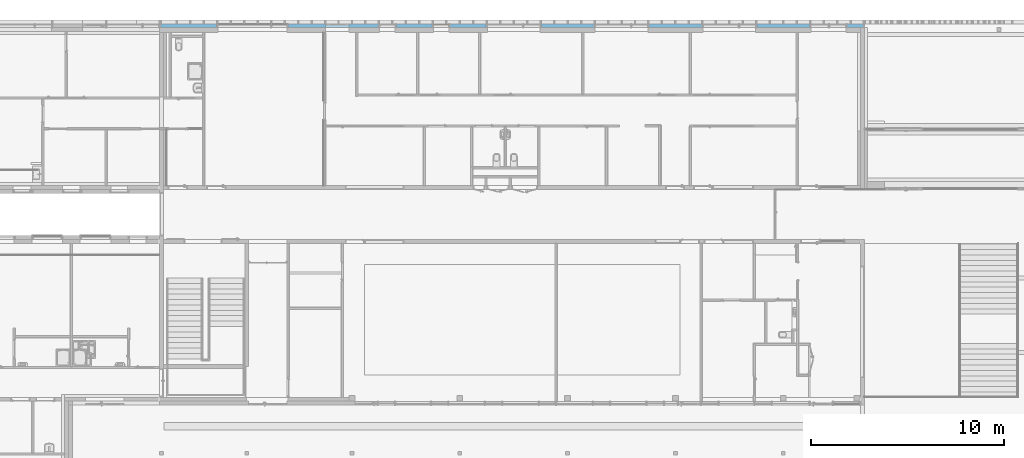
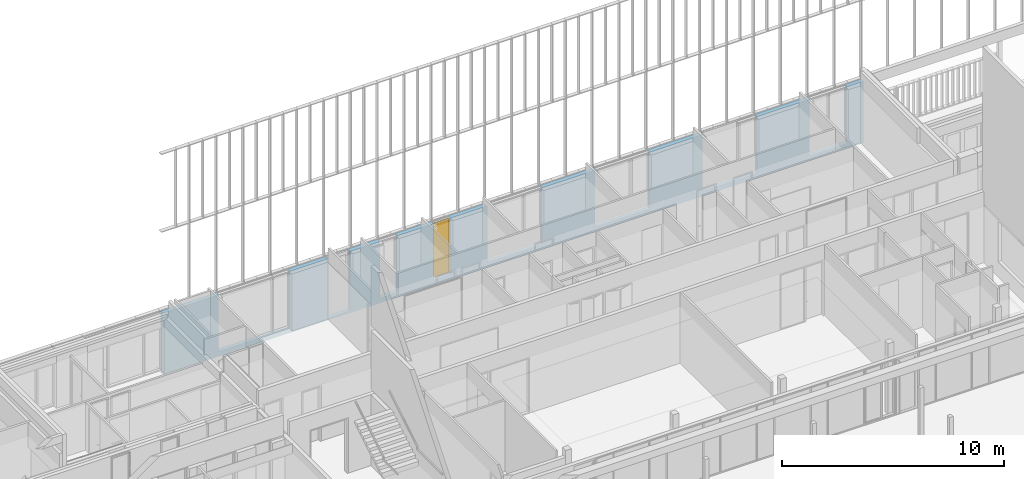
# One storey, part 216 of 240: 1 window, 14 openings, plus 1 element that does not belong to this part.
"""IFC2X3 building model written with IfcOpenShell, lengths in centimetres."""

from ifc_helpers import new_model, entity, si_unit, converted_unit, derived_unit, direction, frame, frame_2d, origin, place, context, subcontext, project, spatial, rectangle, extrude, faceted_brep, source, transform, mapped, material, material_list, layer, layer_set, layer_usage, type_object, type_shapes, element, fill, save


model = new_model("IFC2X3")

# Units and contexts
model_context = context("Model", 3, precision=0.001, world=origin(), true_north=direction((6.12303176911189e-17, 1.0)))
body_context = subcontext(model_context, "Body", "Model", "MODEL_VIEW")
ifc_project = project(units=[si_unit("LENGTHUNIT", "METRE", prefix="CENTI"), si_unit("AREAUNIT", "SQUARE_METRE"), si_unit("VOLUMEUNIT", "CUBIC_METRE"), converted_unit("PLANEANGLEUNIT", "DEGREE", entity("IfcRatioMeasure", 0.0174532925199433), si_unit("PLANEANGLEUNIT", "RADIAN"), dimensions=[0, 0, 0, 0, 0, 0, 0]), si_unit("MASSUNIT", "GRAM", prefix="KILO"), derived_unit("MASSDENSITYUNIT", [(si_unit("MASSUNIT", "GRAM", prefix="KILO"), 1), (si_unit("LENGTHUNIT", "METRE"), -3)]), si_unit("TIMEUNIT", "SECOND"), si_unit("FREQUENCYUNIT", "HERTZ"), si_unit("THERMODYNAMICTEMPERATUREUNIT", "DEGREE_CELSIUS"), derived_unit("THERMALTRANSMITTANCEUNIT", [(si_unit("MASSUNIT", "GRAM", prefix="KILO"), 1), (si_unit("THERMODYNAMICTEMPERATUREUNIT", "KELVIN"), -1), (si_unit("TIMEUNIT", "SECOND"), -3)]), derived_unit("VOLUMETRICFLOWRATEUNIT", [(si_unit("LENGTHUNIT", "METRE"), 3), (si_unit("TIMEUNIT", "SECOND"), -1)]), si_unit("ELECTRICCURRENTUNIT", "AMPERE"), si_unit("ELECTRICVOLTAGEUNIT", "VOLT"), si_unit("POWERUNIT", "WATT"), si_unit("FORCEUNIT", "NEWTON", prefix="KILO"), si_unit("ILLUMINANCEUNIT", "LUX"), si_unit("LUMINOUSFLUXUNIT", "LUMEN"), si_unit("LUMINOUSINTENSITYUNIT", "CANDELA"), derived_unit("USERDEFINED", [(si_unit("MASSUNIT", "GRAM", prefix="KILO"), -1), (si_unit("LENGTHUNIT", "METRE"), -2), (si_unit("TIMEUNIT", "SECOND"), 3), (si_unit("LUMINOUSFLUXUNIT", "LUMEN"), 1)]), derived_unit("LINEARVELOCITYUNIT", [(si_unit("LENGTHUNIT", "METRE"), 1), (si_unit("TIMEUNIT", "SECOND"), -1)]), si_unit("PRESSUREUNIT", "PASCAL"), derived_unit("USERDEFINED", [(si_unit("LENGTHUNIT", "METRE"), -2), (si_unit("MASSUNIT", "GRAM", prefix="KILO"), 1), (si_unit("TIMEUNIT", "SECOND"), -2)])], contexts=[model_context])

# Site, building, storey
site_placement = place(None, frame((-2781.94577612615, 7442.24238424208, 0.0)))
site = spatial("IfcSite", under=ifc_project, at=site_placement, Name="Default", CompositionType="ELEMENT")
building_placement = place(site_placement, origin())
building = spatial("IfcBuilding", under=site, at=building_placement, CompositionType="ELEMENT")
storey_placement = place(building_placement, origin())
storey = spatial("IfcBuildingStorey", under=building, at=storey_placement, Name="N00 - COO", CompositionType="ELEMENT", Elevation=0.0)

# Wall, openings, window
ifc_material_1 = material(Name="Aluminium bardage")
ifc_layer_1 = layer(ifc_material_1, 0.5)
ifc_material_2 = material(Name="01 - Lame d'air")
ifc_layer_2 = layer(ifc_material_2, 1.5)
ifc_material_3 = material(Name="00 - Isolant")
ifc_layer_3 = layer(ifc_material_3, 18.0)
ifc_layer_set = layer_set([ifc_layer_1, ifc_layer_2, ifc_layer_3], Name="Mur de base:04 - Parement - ITE 18cm + vide 2cm")
ifc_layer_usage = layer_usage(ifc_layer_set, "AXIS2", "POSITIVE", -10.0)
wall_type = type_object("IfcWallType", Name="Mur de base:04 - Parement - ITE 18cm + vide 2cm", PredefinedType="STANDARD", material=ifc_layer_set)
wall_placement = place(storey_placement, frame((-4772.99987760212, 20.0, -26.0), z_axis=(0.0, 0.0, 1.0), x_axis=(-1.0, 0.0, 0.0)))
wall = element("IfcWallStandardCase", 1, at=wall_placement, inside=storey, type_object=wall_type, material=ifc_layer_usage, Name="Mur de base:04 - Parement - ITE 18cm + vide 2cm", ObjectType="Mur de base:04 - Parement - ITE 18cm + vide 2cm", context=body_context, shape_type="SweptSolid", body=[
    extrude(rectangle(XDim=3650.75000006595, YDim=20.0, at=frame_2d((1825.37500003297, -8.88178419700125e-16), x_axis=(-1.0, 0.0))), origin(), (0.0, 0.0, 1.0), 339.000000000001),
])
opening_1_placement = place(wall_placement, origin())
element("IfcOpeningElement", 2, at=opening_1_placement, cuts=wall, Name="Mur de base:04 - Parement - ITE 18cm + vide 2cm", ObjectType="Opening", context=body_context, shape_type="SweptSolid", body=[
    extrude(rectangle(XDim=313.0, YDim=194.749999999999, at=frame_2d((0.0, 4.33431068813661e-13), x_axis=(1.0, 0.0))), frame((182.374999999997, -25.24, 182.5), z_axis=(0.0, 1.0, 0.0), x_axis=(0.0, 0.0, 1.0)), (0.0, 0.0, 1.0), 50.48),
])
opening_2_placement = place(wall_placement, origin())
element("IfcOpeningElement", 3, at=opening_2_placement, cuts=wall, Name="Mur de base:04 - Parement - ITE 18cm + vide 2cm", ObjectType="Opening", context=body_context, shape_type="SweptSolid", body=[
    extrude(rectangle(XDim=313.0, YDim=286.500000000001, at=frame_2d((0.0, 0.0), x_axis=(0.0, 1.0))), frame((696.499999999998, -25.24, 182.5), z_axis=(0.0, 1.0, 0.0), x_axis=(-1.0, 0.0, 0.0)), (0.0, 0.0, 1.0), 50.48),
])
opening_3_placement = place(wall_placement, origin())
element("IfcOpeningElement", 4, at=opening_3_placement, cuts=wall, Name="Mur de base:04 - Parement - ITE 18cm + vide 2cm", ObjectType="Opening", context=body_context, shape_type="SweptSolid", body=[
    extrude(rectangle(XDim=313.0, YDim=286.500000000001, at=frame_2d((0.0, 0.0), x_axis=(0.0, 1.0))), frame((1256.5, -25.24, 182.5), z_axis=(0.0, 1.0, 0.0), x_axis=(-1.0, 0.0, 0.0)), (0.0, 0.0, 1.0), 50.48),
])
opening_4_placement = place(wall_placement, origin())
element("IfcOpeningElement", 5, at=opening_4_placement, cuts=wall, Name="Mur de base:04 - Parement - ITE 18cm + vide 2cm", ObjectType="Opening", context=body_context, shape_type="SweptSolid", body=[
    extrude(rectangle(XDim=313.0, YDim=286.500000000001, at=frame_2d((0.0, 0.0), x_axis=(0.0, 1.0))), frame((1816.5, -25.24, 182.5), z_axis=(0.0, 1.0, 0.0), x_axis=(-1.0, 0.0, 0.0)), (0.0, 0.0, 1.0), 50.48),
])
opening_5_placement = place(wall_placement, origin())
element("IfcOpeningElement", 6, at=opening_5_placement, cuts=wall, Name="Mur de base:04 - Parement - ITE 18cm + vide 2cm", ObjectType="Opening", context=body_context, shape_type="SweptSolid", body=[
    extrude(rectangle(XDim=313.0, YDim=89.9999999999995, at=frame_2d((0.0, -4.33431068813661e-13), x_axis=(1.0, 0.0))), frame((2194.75, -25.24, 182.5), z_axis=(0.0, 1.0, 0.0), x_axis=(0.0, 0.0, 1.0)), (0.0, 0.0, 1.0), 50.48),
])
opening_6_placement = place(wall_placement, origin())
element("IfcOpeningElement", 7, at=opening_6_placement, cuts=wall, Name="Mur de base:04 - Parement - ITE 18cm + vide 2cm", ObjectType="Opening", context=body_context, shape_type="SweptSolid", body=[
    extrude(rectangle(XDim=313.0, YDim=93.2499999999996, at=frame_2d((0.0, 4.33431068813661e-13), x_axis=(1.0, 0.0))), frame((2473.125, -25.24, 182.5), z_axis=(0.0, 1.0, 0.0), x_axis=(0.0, 0.0, 1.0)), (0.0, 0.0, 1.0), 50.48),
])
opening_7_placement = place(wall_placement, origin())
element("IfcOpeningElement", 8, at=opening_7_placement, cuts=wall, Name="Mur de base:04 - Parement - ITE 18cm + vide 2cm", ObjectType="Opening", context=body_context, shape_type="SweptSolid", body=[
    extrude(rectangle(XDim=313.0, YDim=93.2499999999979, at=frame_2d((4.33431068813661e-13, 0.0), x_axis=(0.0, 1.0))), frame((3033.125, -25.24, 182.5), z_axis=(0.0, 1.0, 0.0), x_axis=(-1.0, 0.0, 0.0)), (0.0, 0.0, 1.0), 50.48),
])
opening_8_placement = place(wall_placement, origin())
element("IfcOpeningElement", 9, at=opening_8_placement, cuts=wall, Name="Mur de base:04 - Parement - ITE 18cm + vide 2cm", ObjectType="Opening", context=body_context, shape_type="SweptSolid", body=[
    extrude(rectangle(XDim=313.0, YDim=286.500000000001, at=frame_2d((-8.66862137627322e-13, 0.0), x_axis=(0.0, 1.0))), frame((3216.5, -25.24, 182.5), z_axis=(0.0, 1.0, 0.0), x_axis=(-1.0, 0.0, 0.0)), (0.0, 0.0, 1.0), 50.48),
])
opening_9_placement = place(wall_placement, frame((2793.25, 50.449870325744, 11.0), z_axis=(0.0, 0.0, 1.0), x_axis=(-1.0, 0.0, 0.0)))
element("IfcOpeningElement", 10, at=opening_9_placement, cuts=wall, Name="Mur de base:04 - Parement - ITE 18cm + vide 2cm", ObjectType="Opening", context=body_context, shape_type="Brep", body=[
    faceted_brep([(2.0, 60.5498703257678, 326.0), (118.0, 60.5498703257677, 326.0), (118.0, 60.5498703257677, 0.0), (2.0, 60.5498703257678, 0.0), (2.0, 60.0, 0.0), (2.0, 60.0, 326.0), (118.0, 60.0, 0.0), (120.0, 60.0, 0.0), (120.0, 0.0, 0.0), (0.0, 0.0, 0.0), (0.0, 60.0, 0.0), (118.0, 60.0, 326.0), (120.0, 0.0, 328.0), (0.0, 0.0, 328.0), (120.0, 60.0, 328.0), (0.0, 60.0, 328.0)], [[[0, 1, 2, 3]], [[3, 4, 5, 0]], [[2, 6, 7, 8, 9, 10, 4, 3]], [[1, 11, 6, 2]], [[0, 5, 11, 1]], [[12, 13, 9, 8]], [[14, 7, 6, 11, 5, 4, 10, 15]], [[8, 7, 14, 12]], [[13, 15, 10, 9]], [[12, 14, 15, 13]]]),
])
opening_10_placement = place(wall_placement, frame((1763.25, 10.0, 32.5)))
element("IfcOpeningElement", 11, at=opening_10_placement, cuts=wall, Name="Ouvrant vitré:Ouvrant vitré (90cm) RDC:1", ObjectType="Opening", context=body_context, shape_type="SweptSolid", body=[
    extrude(rectangle(XDim=299.5, YDim=83.5000000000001, at=frame_2d((149.75, 41.75), x_axis=(1.0, 0.0))), frame((0.0, 0.0, 0.0), z_axis=(0.0, -1.0, 0.0), x_axis=(0.0, 0.0, 1.0)), (0.0, 0.0, 1.0), 20.0),
])
opening_11_placement = place(wall_placement, frame((175.0, 10.0, 32.5)))
element("IfcOpeningElement", 12, at=opening_11_placement, cuts=wall, Name="Ouvrant vitré:Ouvrant vitré (90cm) RDC:1", ObjectType="Opening", context=body_context, shape_type="SweptSolid", body=[
    extrude(rectangle(XDim=299.5, YDim=83.5000000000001, at=frame_2d((149.75, 41.75), x_axis=(1.0, 0.0))), frame((0.0, 0.0, 0.0), z_axis=(0.0, -1.0, 0.0), x_axis=(0.0, 0.0, 1.0)), (0.0, 0.0, 1.0), 20.0),
])
opening_12_placement = place(wall_placement, frame((1203.25, 10.0, 32.5)))
element("IfcOpeningElement", 13, at=opening_12_placement, cuts=wall, Name="Ouvrant vitré:Ouvrant vitré (90cm) RDC:1", ObjectType="Opening", context=body_context, shape_type="SweptSolid", body=[
    extrude(rectangle(XDim=299.5, YDim=83.5000000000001, at=frame_2d((149.75, 41.75), x_axis=(1.0, 0.0))), frame((0.0, 0.0, 0.0), z_axis=(0.0, -1.0, 0.0), x_axis=(0.0, 0.0, 1.0)), (0.0, 0.0, 1.0), 20.0),
])
opening_13_placement = place(wall_placement, frame((643.249999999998, 10.0, 32.5)))
element("IfcOpeningElement", 14, at=opening_13_placement, cuts=wall, Name="Ouvrant vitré:Ouvrant vitré (90cm) RDC:1", ObjectType="Opening", context=body_context, shape_type="SweptSolid", body=[
    extrude(rectangle(XDim=299.5, YDim=83.5000000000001, at=frame_2d((149.75, 41.75), x_axis=(1.0, 0.0))), frame((0.0, 0.0, 0.0), z_axis=(0.0, -1.0, 0.0), x_axis=(0.0, 0.0, 1.0)), (0.0, 0.0, 1.0), 20.0),
])
opening_14_placement = place(wall_placement, frame((2236.5, 10.0, 32.5)))
opening_14 = element("IfcOpeningElement", 15, at=opening_14_placement, cuts=wall, Name="Ouvrant vitré:Ouvrant vitré (90cm) RDC:1", ObjectType="Opening", context=body_context, shape_type="SweptSolid", body=[
    extrude(rectangle(XDim=299.5, YDim=83.5000000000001, at=frame_2d((149.75, 41.75), x_axis=(1.0, 0.0))), frame((0.0, 0.0, 0.0), z_axis=(0.0, -1.0, 0.0), x_axis=(0.0, 0.0, 1.0)), (0.0, 0.0, 1.0), 20.0),
])
ifc_material_4 = material(Name="Verre")
ifc_material_5 = material(Name="Aluminium")
ifc_material_list_1 = material_list([ifc_material_4, ifc_material_5])
ifc_material_list_2 = material_list([ifc_material_4, ifc_material_5])
window_style = type_object("IfcWindowStyle", Name="Ouvrant vitré (90cm) RDC", ConstructionType="NOTDEFINED", OperationType="NOTDEFINED", ParameterTakesPrecedence=False, Sizeable=False, material=ifc_material_list_2)
shared_shape = source(origin(), body_context, "Body", "Brep", [
    faceted_brep([(77.0, 15.2499999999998, 293.0), (77.0, 15.2499999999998, 6.49999999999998), (6.50000000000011, 15.2500000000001, 6.49999999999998), (6.50000000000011, 15.2500000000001, 293.0), (77.0, 13.2499999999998, 293.0), (77.0, 13.2499999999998, 6.49999999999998), (6.50000000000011, 13.2500000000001, 6.49999999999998), (6.50000000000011, 13.2500000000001, 293.0)], [[[0, 1, 2, 3]], [[1, 0, 4, 5]], [[2, 1, 5, 6]], [[3, 2, 6, 7]], [[4, 7, 6, 5]], [[0, 3, 7, 4]]]),
    faceted_brep([(80.0, 16.3874678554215, 296.0), (80.0, 16.3874678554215, 3.50000000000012), (3.50000000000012, 16.3874678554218, 3.50000000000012), (3.50000000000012, 16.3874678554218, 296.0), (77.0, 16.3874678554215, 293.0), (6.50000000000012, 16.3874678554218, 293.0), (6.50000000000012, 16.3874678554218, 6.50000000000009), (77.0, 16.3874678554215, 6.50000000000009), (80.0, 12.8874678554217, 296.0), (80.0, 12.8874678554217, 3.50000000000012), (3.50000000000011, 12.887467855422, 3.50000000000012), (3.50000000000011, 12.887467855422, 296.0), (6.50000000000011, 12.887467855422, 293.0), (6.50000000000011, 12.887467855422, 6.50000000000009), (77.0, 12.8874678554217, 6.50000000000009), (77.0, 12.8874678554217, 293.0)], [[[0, 1, 2, 3], [4, 5, 6, 7]], [[1, 0, 8, 9]], [[2, 1, 9, 10]], [[3, 2, 10, 11]], [[6, 5, 12, 13]], [[7, 6, 13, 14]], [[4, 7, 14, 15]], [[15, 14, 13, 12], [8, 11, 10, 9]], [[0, 3, 11, 8]], [[5, 4, 15, 12]]], outer=[[True, False], [True], [True], [True], [True], [True], [True], [False, True], [True], [True]]),
    faceted_brep([(78.5, 16.3874678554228, 294.5), (78.5, 17.8874678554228, 294.5), (78.5, 17.8874678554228, 5.0), (78.5, 16.3874678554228, 5.0), (83.5, 17.8874678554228, 0.0), (0.0, 17.8874678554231, 0.0), (0.0, 17.8874678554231, 299.5), (83.5, 17.8874678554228, 299.5), (5.0, 17.8874678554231, 294.5), (5.0, 17.8874678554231, 5.0), (5.0, 16.3874678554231, 5.0), (5.0, 16.3874678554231, 294.5), (80.0, 16.3874678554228, 296.0), (3.50000000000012, 16.3874678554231, 296.0), (3.50000000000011, 16.3874678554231, 3.50000000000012), (80.0, 16.3874678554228, 3.50000000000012), (80.0, 12.8874678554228, 296.0), (80.0, 12.8874678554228, 3.50000000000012), (3.5000000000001, 12.8874678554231, 3.50000000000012), (3.50000000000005, 12.8874678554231, 296.0), (83.5000000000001, 12.8874678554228, 299.5), (0.0, 12.8874678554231, 299.5), (0.0, 12.8874678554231, 0.0), (83.5, 12.8874678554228, 0.0)], [[[0, 1, 2, 3]], [[4, 5, 6, 7], [1, 8, 9, 2]], [[3, 2, 9, 10]], [[3, 10, 11, 0], [12, 13, 14, 15]], [[16, 12, 15, 17]], [[17, 15, 14, 18]], [[17, 18, 19, 16], [20, 21, 22, 23]], [[7, 20, 23, 4]], [[4, 23, 22, 5]], [[10, 9, 8, 11]], [[18, 14, 13, 19]], [[5, 22, 21, 6]], [[11, 8, 1, 0]], [[19, 13, 12, 16]], [[6, 21, 20, 7]]], outer=[[True], [True, False], [True], [False, True], [True], [True], [False, True], [True], [True], [True], [True], [True], [True], [True], [True]]),
])
type_shapes(window_style, [shared_shape])
window_placement = place(opening_14_placement, frame((0.0, 0.0, 0.0), z_axis=(0.0, 0.0, 1.0), x_axis=(-1.0, 0.0, 0.0)))
window = element("IfcWindow", 16, at=window_placement, inside=storey, type_object=window_style, material=ifc_material_list_1, Name="Ouvrant vitré:Ouvrant vitré (90cm) RDC", ObjectType="Ouvrant vitré:Ouvrant vitré (90cm) RDC", OverallHeight=299.5, OverallWidth=83.5000000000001, context=body_context, shape_type="MappedRepresentation", body=[
    mapped(shared_shape, transform((0.0, 0.0, 0.0), scale=1.0)),
])
fill(opening_14, window)

save(model, "model.ifc")
